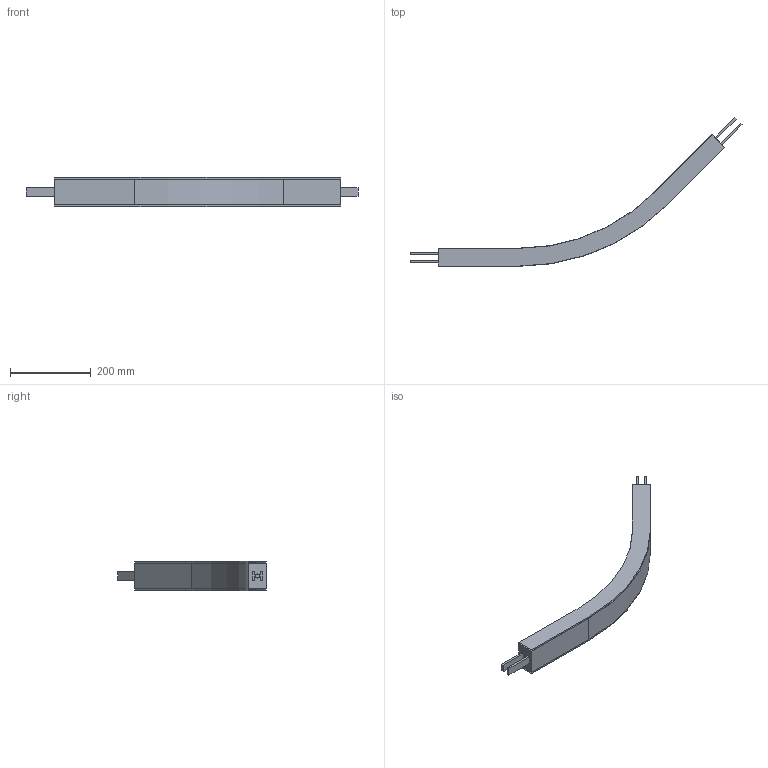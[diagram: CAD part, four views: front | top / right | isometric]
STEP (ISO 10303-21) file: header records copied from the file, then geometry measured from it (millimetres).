
FILE_DESCRIPTION(/* description */ ('Horizontaler Gleitbogen, 45°, R500'),/* implementation_level */ '2;1');
FILE_NAME(/* name */ 'T:\vdz0\Step Daten Website\modulflex FS-System\Horizontale Gleitbögen\FSBP45R500_53806.stp',/* time_stamp */ '2024-08-21T10:20:37+02:00',/* author */ ('lzb0'),/* organization */ ('modular automation GmbH'),/* preprocessor_version */ 'ST-DEVELOPER v18.1',/* originating_system */ 'Autodesk Inventor 2021',/* authorisation */ '');
FILE_SCHEMA (('AUTOMOTIVE_DESIGN { 1 0 10303 214 3 1 1 }'));
Length unit declared in the file: millimetre
Products named in the file (1): FSBP 45R500
Bounding box: 823.49 x 368.88 x 72.2 mm (x, y, z)
Volume: 2346107.6 mm3; surface area: 360530 mm2
Topology: 5 solids, 9 shells, 52 faces, 126 edges, 84 vertices
Faces by surface type: plane 44, cylinder 8
Full cylindrical faces by diameter (mm): 10 x2
Entity records: 1596 total; most frequent: CARTESIAN_POINT 270, DIRECTION 250, ORIENTED_EDGE 232, EDGE_CURVE 126, LINE 110, VECTOR 110, VERTEX_POINT 84, AXIS2_PLACEMENT_3D 70
